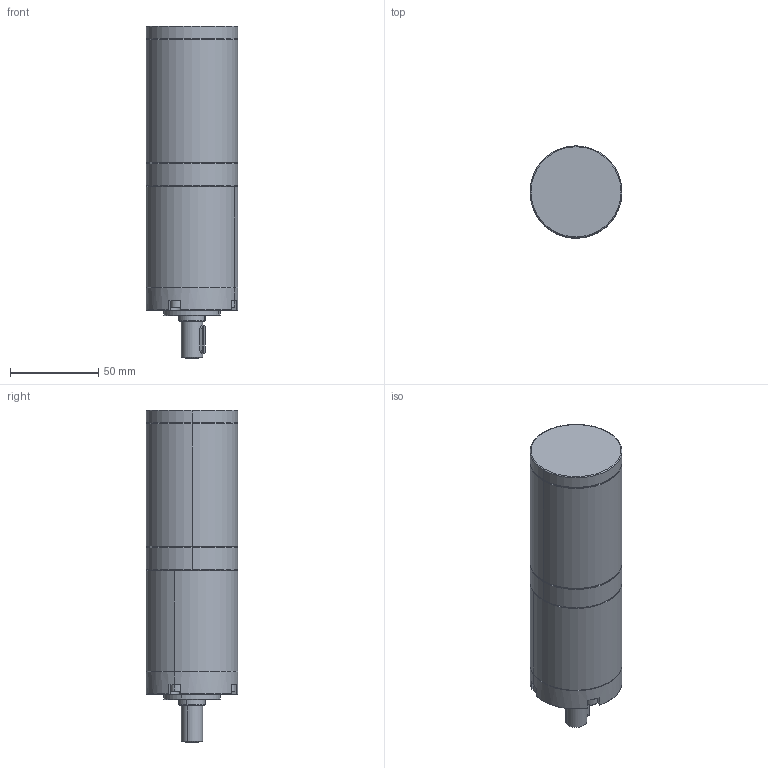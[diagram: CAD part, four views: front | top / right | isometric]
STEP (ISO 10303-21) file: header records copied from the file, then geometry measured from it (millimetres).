
FILE_DESCRIPTION (( 'STEP AP203' ), '1' );
FILE_NAME ('52BLD减速比三级整机.STEP', '2021-07-16T02:55:02', ( '' ), ( '' ), 'SwSTEP 2.0', 'SolidWorks 2021', '' );
FILE_SCHEMA (( 'CONFIG_CONTROL_DESIGN' ));
Length unit declared in the file: millimetre
Products named in the file (3): 52BLD减速比三级整机; 52; 52PN三级
Assembly tree (2 placements, depth 2):
  52BLD减速比三级整机
    52
    52PN三级
Bounding box: 52 x 52 x 187.8 mm (x, y, z)
Volume: 341718 mm3; surface area: 37683 mm2
Topology: 2 solids, 2 shells, 162 faces, 378 edges, 225 vertices
Faces by surface type: plane 59, cone 46, cylinder 45, bspline 10, torus 2
Entity records: 5151 total; most frequent: CARTESIAN_POINT 1190, DIRECTION 806, ORIENTED_EDGE 736, EDGE_CURVE 368, AXIS2_PLACEMENT_3D 305, VERTEX_POINT 225, LINE 196, VECTOR 196
